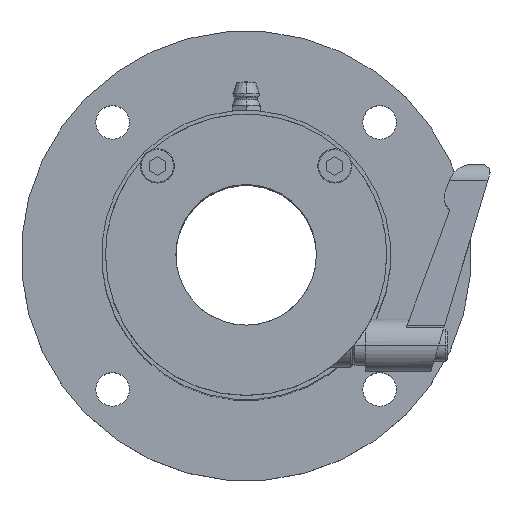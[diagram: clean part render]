
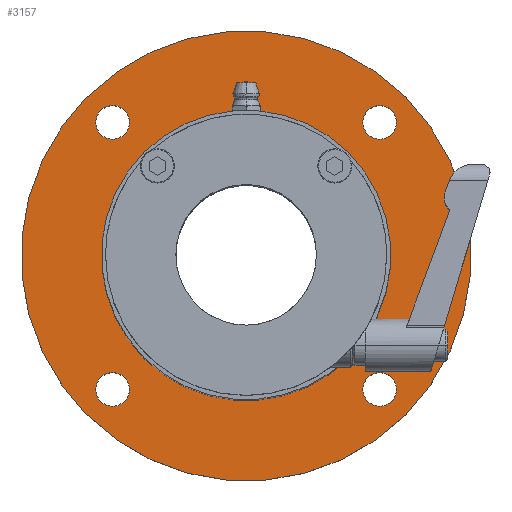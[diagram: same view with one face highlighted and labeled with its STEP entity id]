
A CAD part, top view. The second image highlights one B-rep face of the part: STEP entity #3157.
In plain terms, the highlighted planar face has unit normal (0, 0, 1).
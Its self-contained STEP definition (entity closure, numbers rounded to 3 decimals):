
#152 = CARTESIAN_POINT ( 'NONE',  ( 35.877, -33.482, 92.392 ) ) ;
#342 = DIRECTION ( 'NONE',  ( 0., 0., -1. ) ) ;
#364 = CIRCLE ( 'NONE', #6541, 36. ) ;
#441 = CARTESIAN_POINT ( 'NONE',  ( 35.17, 32.279, 92.392 ) ) ;
#449 = DIRECTION ( 'NONE',  ( 0.707, -0.707, 0. ) ) ;
#545 = DIRECTION ( 'NONE',  ( -0.707, 0.707, 0. ) ) ;
#647 = ORIENTED_EDGE ( 'NONE', *, *, #4280, .T. ) ;
#1101 = AXIS2_PLACEMENT_3D ( 'NONE', #441, #2984, #5425 ) ;
#1226 = EDGE_CURVE ( 'NONE', #2106, #1547, #2415, .T. ) ;
#1332 = PLANE ( 'NONE',  #1101 ) ;
#1379 = ORIENTED_EDGE ( 'NONE', *, *, #4637, .T. ) ;
#1446 = DIRECTION ( 'NONE',  ( 0., 0., -1. ) ) ;
#1508 = CARTESIAN_POINT ( 'NONE',  ( -27.63, 35.948, 92.392 ) ) ;
#1546 = DIRECTION ( 'NONE',  ( 0., 0., -1. ) ) ;
#1547 = VERTEX_POINT ( 'NONE', #5629 ) ;
#1749 = CARTESIAN_POINT ( 'NONE',  ( -36.955, -39.846, 92.392 ) ) ;
#1862 = DIRECTION ( 'NONE',  ( 0.707, -0.707, 0. ) ) ;
#1870 = CIRCLE ( 'NONE', #9545, 4.188 ) ;
#2106 = VERTEX_POINT ( 'NONE', #9173 ) ;
#2133 = CIRCLE ( 'NONE', #7741, 4.188 ) ;
#2415 = CIRCLE ( 'NONE', #5586, 36. ) ;
#2530 = AXIS2_PLACEMENT_3D ( 'NONE', #152, #9475, #7880 ) ;
#2601 = ORIENTED_EDGE ( 'NONE', *, *, #9642, .T. ) ;
#2725 = CARTESIAN_POINT ( 'NONE',  ( -33.552, 30.025, 92.392 ) ) ;
#2748 = EDGE_CURVE ( 'NONE', #6014, #8090, #9444, .T. ) ;
#2904 = ORIENTED_EDGE ( 'NONE', *, *, #4051, .T. ) ;
#2933 = FACE_BOUND ( 'NONE', #6560, .T. ) ;
#2956 = AXIS2_PLACEMENT_3D ( 'NONE', #8791, #10486, #545 ) ;
#2984 = DIRECTION ( 'NONE',  ( 0., 0., 1. ) ) ;
#2989 = DIRECTION ( 'NONE',  ( 0., 0., -1. ) ) ;
#3038 = FACE_BOUND ( 'NONE', #6830, .T. ) ;
#3083 = CIRCLE ( 'NONE', #8175, 4.188 ) ;
#3157 = ADVANCED_FACE ( 'NONE', ( #7130, #5481, #3038, #10431, #2933, #5641 ), #1332, .T. ) ;
#3210 = CARTESIAN_POINT ( 'NONE',  ( 35.877, 32.986, 92.392 ) ) ;
#3372 = DIRECTION ( 'NONE',  ( 0., 0., -1. ) ) ;
#3424 = EDGE_LOOP ( 'NONE', ( #7806, #8443 ) ) ;
#3472 = VERTEX_POINT ( 'NONE', #2725 ) ;
#3544 = DIRECTION ( 'NONE',  ( 0., 0., -1. ) ) ;
#3549 = ORIENTED_EDGE ( 'NONE', *, *, #6717, .T. ) ;
#3575 = AXIS2_PLACEMENT_3D ( 'NONE', #4779, #6281, #7935 ) ;
#4028 = CARTESIAN_POINT ( 'NONE',  ( -30.591, 32.986, 92.392 ) ) ;
#4051 = EDGE_CURVE ( 'NONE', #3472, #6250, #5297, .T. ) ;
#4280 = EDGE_CURVE ( 'NONE', #7103, #8599, #10838, .T. ) ;
#4421 = EDGE_CURVE ( 'NONE', #6250, #3472, #2133, .T. ) ;
#4637 = EDGE_CURVE ( 'NONE', #5993, #5163, #9640, .T. ) ;
#4716 = EDGE_CURVE ( 'NONE', #1547, #2106, #364, .T. ) ;
#4761 = AXIS2_PLACEMENT_3D ( 'NONE', #5159, #3544, #6922 ) ;
#4779 = CARTESIAN_POINT ( 'NONE',  ( 2.643, -0.248, 92.392 ) ) ;
#4866 = CARTESIAN_POINT ( 'NONE',  ( 2.643, -0.248, 92.392 ) ) ;
#5096 = CARTESIAN_POINT ( 'NONE',  ( -30.591, -33.482, 92.392 ) ) ;
#5159 = CARTESIAN_POINT ( 'NONE',  ( 2.643, -0.248, 92.392 ) ) ;
#5163 = VERTEX_POINT ( 'NONE', #10278 ) ;
#5297 = CIRCLE ( 'NONE', #10165, 4.188 ) ;
#5425 = DIRECTION ( 'NONE',  ( 0.707, -0.707, 0. ) ) ;
#5481 = FACE_BOUND ( 'NONE', #8037, .T. ) ;
#5586 = AXIS2_PLACEMENT_3D ( 'NONE', #4866, #2989, #7196 ) ;
#5629 = CARTESIAN_POINT ( 'NONE',  ( 28.099, 25.208, 92.392 ) ) ;
#5641 = FACE_BOUND ( 'NONE', #10283, .T. ) ;
#5748 = CARTESIAN_POINT ( 'NONE',  ( 32.916, -36.443, 92.392 ) ) ;
#5993 = VERTEX_POINT ( 'NONE', #8125 ) ;
#6014 = VERTEX_POINT ( 'NONE', #1749 ) ;
#6234 = ORIENTED_EDGE ( 'NONE', *, *, #9108, .T. ) ;
#6250 = VERTEX_POINT ( 'NONE', #1508 ) ;
#6281 = DIRECTION ( 'NONE',  ( 0., 0., -1. ) ) ;
#6439 = EDGE_LOOP ( 'NONE', ( #6845, #2904 ) ) ;
#6472 = CARTESIAN_POINT ( 'NONE',  ( 35.877, -33.482, 92.392 ) ) ;
#6541 = AXIS2_PLACEMENT_3D ( 'NONE', #7278, #1546, #10639 ) ;
#6560 = EDGE_LOOP ( 'NONE', ( #647, #2601 ) ) ;
#6610 = DIRECTION ( 'NONE',  ( 0.707, 0.707, 0. ) ) ;
#6717 = EDGE_CURVE ( 'NONE', #7230, #10513, #10574, .T. ) ;
#6814 = DIRECTION ( 'NONE',  ( -0.707, 0.707, 0. ) ) ;
#6830 = EDGE_LOOP ( 'NONE', ( #6234, #1379 ) ) ;
#6845 = ORIENTED_EDGE ( 'NONE', *, *, #4421, .T. ) ;
#6883 = EDGE_CURVE ( 'NONE', #8090, #6014, #8479, .T. ) ;
#6922 = DIRECTION ( 'NONE',  ( 0.707, 0.707, 0. ) ) ;
#7026 = CARTESIAN_POINT ( 'NONE',  ( -30.591, 32.986, 92.392 ) ) ;
#7103 = VERTEX_POINT ( 'NONE', #7455 ) ;
#7130 = FACE_OUTER_BOUND ( 'NONE', #3424, .T. ) ;
#7196 = DIRECTION ( 'NONE',  ( 0.707, 0.707, 0. ) ) ;
#7230 = VERTEX_POINT ( 'NONE', #5748 ) ;
#7240 = CARTESIAN_POINT ( 'NONE',  ( 42.241, 39.35, 92.392 ) ) ;
#7248 = AXIS2_PLACEMENT_3D ( 'NONE', #5096, #7618, #6814 ) ;
#7278 = CARTESIAN_POINT ( 'NONE',  ( 2.643, -0.248, 92.392 ) ) ;
#7455 = CARTESIAN_POINT ( 'NONE',  ( 38.839, 30.025, 92.392 ) ) ;
#7468 = ORIENTED_EDGE ( 'NONE', *, *, #9616, .T. ) ;
#7618 = DIRECTION ( 'NONE',  ( 0., 0., -1. ) ) ;
#7708 = CIRCLE ( 'NONE', #2956, 4.188 ) ;
#7741 = AXIS2_PLACEMENT_3D ( 'NONE', #7026, #342, #8593 ) ;
#7760 = ORIENTED_EDGE ( 'NONE', *, *, #4716, .T. ) ;
#7806 = ORIENTED_EDGE ( 'NONE', *, *, #6883, .F. ) ;
#7834 = ORIENTED_EDGE ( 'NONE', *, *, #1226, .T. ) ;
#7880 = DIRECTION ( 'NONE',  ( -0.707, -0.707, 0. ) ) ;
#7918 = AXIS2_PLACEMENT_3D ( 'NONE', #9244, #3372, #1862 ) ;
#7935 = DIRECTION ( 'NONE',  ( 0.707, 0.707, 0. ) ) ;
#8037 = EDGE_LOOP ( 'NONE', ( #3549, #7468 ) ) ;
#8090 = VERTEX_POINT ( 'NONE', #7240 ) ;
#8125 = CARTESIAN_POINT ( 'NONE',  ( -27.63, -36.443, 92.392 ) ) ;
#8128 = CARTESIAN_POINT ( 'NONE',  ( 38.839, -30.52, 92.392 ) ) ;
#8175 = AXIS2_PLACEMENT_3D ( 'NONE', #3210, #1446, #449 ) ;
#8443 = ORIENTED_EDGE ( 'NONE', *, *, #2748, .F. ) ;
#8479 = CIRCLE ( 'NONE', #3575, 56. ) ;
#8593 = DIRECTION ( 'NONE',  ( 0.707, 0.707, 0. ) ) ;
#8599 = VERTEX_POINT ( 'NONE', #9940 ) ;
#8791 = CARTESIAN_POINT ( 'NONE',  ( -30.591, -33.482, 92.392 ) ) ;
#9039 = DIRECTION ( 'NONE',  ( 0., 0., -1. ) ) ;
#9108 = EDGE_CURVE ( 'NONE', #5163, #5993, #7708, .T. ) ;
#9173 = CARTESIAN_POINT ( 'NONE',  ( -22.813, -25.704, 92.392 ) ) ;
#9244 = CARTESIAN_POINT ( 'NONE',  ( 35.877, 32.986, 92.392 ) ) ;
#9444 = CIRCLE ( 'NONE', #4761, 56. ) ;
#9475 = DIRECTION ( 'NONE',  ( 0., 0., -1. ) ) ;
#9545 = AXIS2_PLACEMENT_3D ( 'NONE', #6472, #9776, #10661 ) ;
#9616 = EDGE_CURVE ( 'NONE', #10513, #7230, #1870, .T. ) ;
#9640 = CIRCLE ( 'NONE', #7248, 4.188 ) ;
#9642 = EDGE_CURVE ( 'NONE', #8599, #7103, #3083, .T. ) ;
#9776 = DIRECTION ( 'NONE',  ( 0., 0., -1. ) ) ;
#9940 = CARTESIAN_POINT ( 'NONE',  ( 32.916, 35.948, 92.392 ) ) ;
#10165 = AXIS2_PLACEMENT_3D ( 'NONE', #4028, #9039, #6610 ) ;
#10278 = CARTESIAN_POINT ( 'NONE',  ( -33.552, -30.52, 92.392 ) ) ;
#10283 = EDGE_LOOP ( 'NONE', ( #7760, #7834 ) ) ;
#10431 = FACE_BOUND ( 'NONE', #6439, .T. ) ;
#10486 = DIRECTION ( 'NONE',  ( 0., 0., -1. ) ) ;
#10513 = VERTEX_POINT ( 'NONE', #8128 ) ;
#10574 = CIRCLE ( 'NONE', #2530, 4.188 ) ;
#10639 = DIRECTION ( 'NONE',  ( 0.707, 0.707, 0. ) ) ;
#10661 = DIRECTION ( 'NONE',  ( -0.707, -0.707, 0. ) ) ;
#10838 = CIRCLE ( 'NONE', #7918, 4.188 ) ;
